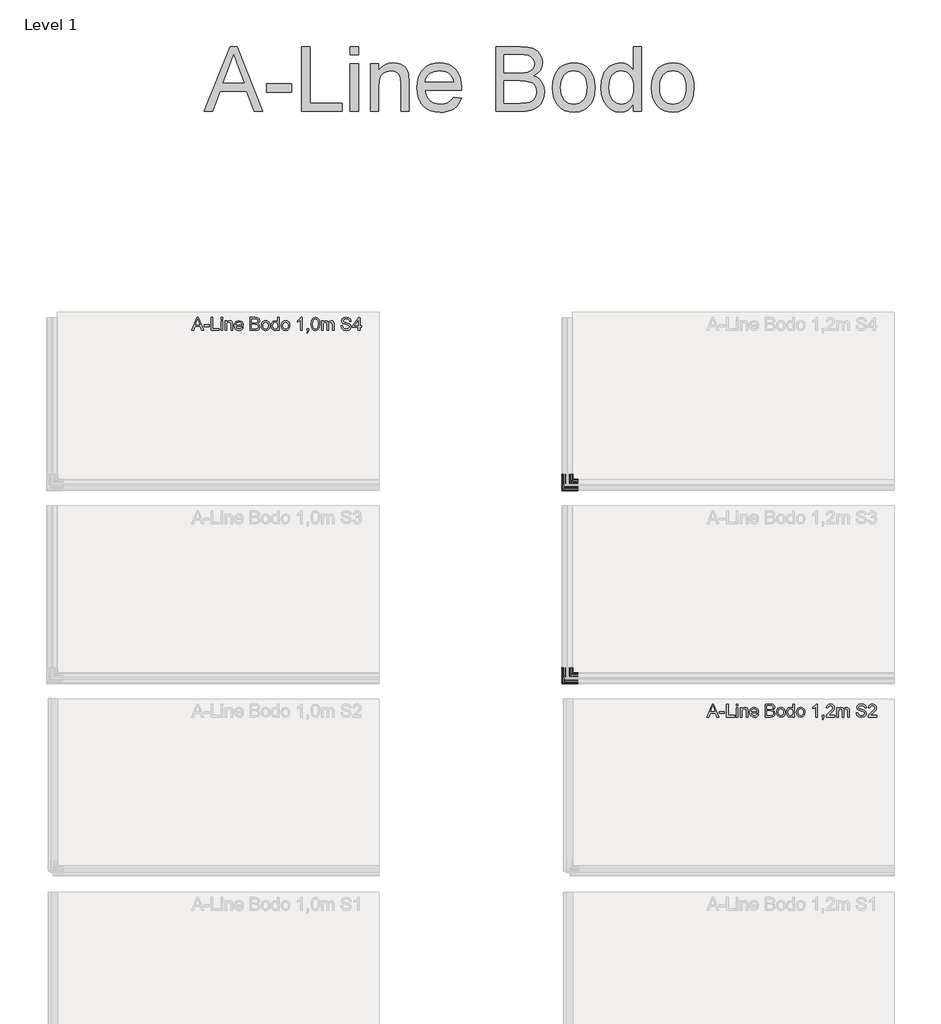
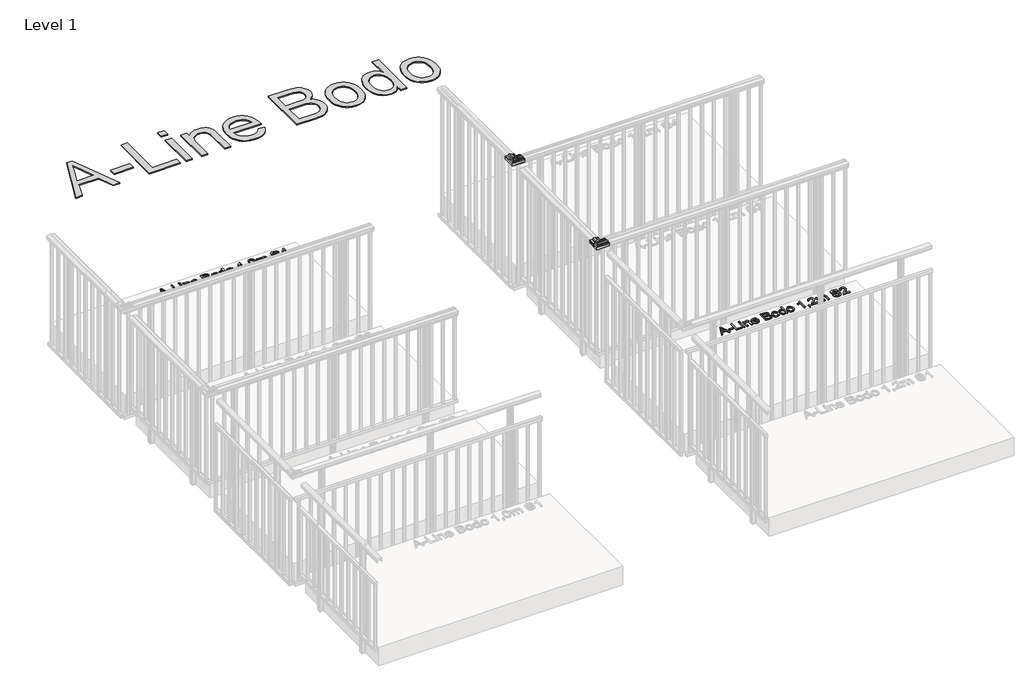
# One storey, part 51 of 66: 5 proxies.
"""IFC4 building model written with IfcOpenShell, lengths in millimetres."""

from ifc_helpers import new_model, si_unit, origin, origin_with_axes, place, context, project, spatial, polyline, outline, extrude, transform, mapped, element, save
from components import generic_models_224f447f

model = new_model("IFC4")

# Units and contexts
model_context = context("Model", 3, world=origin())
ifc_project = project(units=[si_unit("LENGTHUNIT", "METRE", prefix="MILLI")], contexts=[model_context])

# Site, building, storey
site = spatial("IfcSite", under=ifc_project)
building = spatial("IfcBuilding", under=site)
storey = spatial("IfcBuildingStorey", under=building, Name="Level 1", Elevation=0.0)

# Proxies
placement = place(None, origin())
generic_models_shape = generic_models_224f447f(model_context)
element("IfcBuildingElementProxy", 1, Name="Innore top rail 81x35 corner element : Innore top rail 81x35 element", ObjectType="Innore top rail 81x35 corner element : Innore top rail 81x35 element", at=placement, inside=storey, context=model_context, shape_type="MappedRepresentation", body=[
    mapped(generic_models_shape, transform((8465.4055183, -14608.7359818, 1200.0), x_axis=(0.0, -1.0, 0.0), y_axis=(1.0, 0.0, 0.0), z_axis=(0.0, 0.0, 1.0))),
])
element("IfcBuildingElementProxy", 2, Name="Innore top rail 81x35 corner element : Innore top rail 81x35 element", ObjectType="Innore top rail 81x35 corner element : Innore top rail 81x35 element", at=placement, inside=storey, context=model_context, shape_type="MappedRepresentation", body=[
    mapped(generic_models_shape, transform((8465.4055183, -13109.7805179, 1200.0), x_axis=(0.0, -1.0, 0.0), y_axis=(1.0, 0.0, 0.0), z_axis=(0.0, 0.0, 1.0))),
])
element("IfcBuildingElementProxy", 3, Name="100mm Arial", ObjectType="100mm Arial", at=placement, inside=storey, context=model_context, shape_type="SweptSolid", body=[
    extrude(outline(polyline([(5549.8662562, -11909.7113559), (5589.9653937, -11809.2550458), (5600.658497, -11809.2550458), (5640.7576345, -11909.7113559), (5627.4893572, -11909.7113559), (5615.9869135, -11878.318759), (5574.6124518, -11878.318759), (5563.1345335, -11909.7113559), (5549.8662562, -11909.7113559)]), holes=[polyline([(5579.2232395, -11865.7617202), (5611.4006513, -11865.7617202), (5602.3507542, -11841.0645756), (5595.3119454, -11821.8120845), (5589.0579515, -11838.9063346), (5579.2232395, -11865.7617202)])]), origin_with_axes(), (0.0, 0.0, 1.0), 10.0),
    extrude(outline(polyline([(5646.3249154, -11879.8883888), (5646.3249154, -11867.3313501), (5685.5656615, -11867.3313501), (5685.5656615, -11879.8883888), (5646.3249154, -11879.8883888)])), origin_with_axes(), (0.0, 0.0, 1.0), 10.0),
    extrude(outline(polyline([(5701.26196, -11909.7113559), (5701.26196, -11809.2550458), (5713.8189988, -11809.2550458), (5713.8189988, -11897.1543171), (5764.0471538, -11897.1543171), (5764.0471538, -11909.7113559), (5701.26196, -11909.7113559)])), origin_with_axes(), (0.0, 0.0, 1.0), 10.0),
    extrude(outline(polyline([(5776.6041926, -11821.8120845), (5776.6041926, -11809.2550458), (5789.1612314, -11809.2550458), (5789.1612314, -11821.8120845), (5776.6041926, -11821.8120845)])), origin_with_axes(), (0.0, 0.0, 1.0), 10.0),
    extrude(outline(polyline([(5776.6041926, -11909.7113559), (5776.6041926, -11835.9387532), (5789.1612314, -11835.9387532), (5789.1612314, -11909.7113559), (5776.6041926, -11909.7113559)])), origin_with_axes(), (0.0, 0.0, 1.0), 10.0),
    extrude(outline(polyline([(5807.9967895, -11909.7113559), (5807.9967895, -11835.9387532), (5820.5538283, -11835.9387532), (5820.5538283, -11846.239449), (5830.1555484, -11837.3367047), (5843.2644101, -11834.3691233), (5855.1224731, -11836.7603563), (5863.215877, -11843.0388757), (5866.9805361, -11852.2727137), (5867.6427237, -11864.4128196), (5867.6427237, -11909.7113559), (5855.0856849, -11909.7113559), (5855.0856849, -11866.1050768), (5853.6386824, -11854.9950405), (5848.5251227, -11849.1211913), (5839.9044212, -11846.9261621), (5826.2805247, -11851.8557808), (5821.9855024, -11858.9988229), (5820.5538283, -11870.5687116), (5820.5538283, -11909.7113559), (5807.9967895, -11909.7113559)])), origin_with_axes(), (0.0, 0.0, 1.0), 10.0),
    extrude(outline(polyline([(5936.5592841, -11887.7365381), (5948.8710682, -11889.3061679), (5944.4350245, -11898.5829256), (5937.3563618, -11905.5175012), (5927.7944956, -11909.8401146), (5915.9088414, -11911.2809858), (5901.1751675, -11908.7947166), (5889.8382707, -11901.3359092), (5882.6093895, -11889.3889414), (5880.1997624, -11873.4381912), (5882.633915, -11856.9509464), (5889.9363726, -11844.6207682), (5901.1199852, -11836.9320345), (5915.1976029, -11834.3691233), (5928.8368279, -11836.9259032), (5939.735332, -11844.5962428), (5946.8814398, -11856.9018955), (5949.2634757, -11873.3646148), (5949.1898993, -11876.7491291), (5892.7568012, -11876.7491291), (5894.9303707, -11886.1485141), (5899.9795511, -11893.0585643), (5907.2666802, -11897.3076013), (5916.1540961, -11898.723947), (5928.4658802, -11896.0997221), (5936.5592841, -11887.7365381)]), holes=[polyline([(5892.7568012, -11864.1920904), (5936.7064369, -11864.1920904), (5931.6787163, -11852.812274), (5924.3578646, -11848.3976901), (5915.148552, -11846.9261621), (5899.6852455, -11851.6227889), (5894.8200061, -11857.1134277), (5892.7568012, -11864.1920904)])]), origin_with_axes(), (0.0, 0.0, 1.0), 10.0),
    extrude(outline(polyline([(6002.6308904, -11909.7113559), (6002.6308904, -11809.2550458), (6040.9641943, -11809.2550458), (6059.7384388, -11812.2103645), (6070.8239496, -11821.2970497), (6074.8338634, -11834.1483941), (6071.4616117, -11845.8838298), (6061.2712805, -11854.7743113), (6073.6443782, -11864.1430394), (6077.973123, -11879.7657615), (6075.0178044, -11893.2670307), (6067.6969527, -11902.8810135), (6056.7708574, -11907.9823105), (6040.6698887, -11909.7113559), (6002.6308904, -11909.7113559)]), holes=[polyline([(6015.1879292, -11897.1543171), (6040.9396689, -11897.1543171), (6050.2593461, -11896.6638078), (6058.1442835, -11893.9292183), (6063.3682078, -11888.3496747), (6065.4160843, -11879.8883888), (6063.0125886, -11870.1272532), (6055.225753, -11864.302455), (6039.7133956, -11862.6224605), (6015.1879292, -11862.6224605), (6015.1879292, -11897.1543171)]), polyline([(6015.1879292, -11850.0654218), (6038.1192402, -11850.0654218), (6051.5101449, -11848.9863012), (6059.5667606, -11844.3387254), (6062.2768246, -11836.1594823), (6059.7507016, -11827.9679766), (6052.515689, -11823.124197), (6036.3779321, -11821.8120845), (6015.1879292, -11821.8120845), (6015.1879292, -11850.0654218)])]), origin_with_axes(), (0.0, 0.0, 1.0), 10.0),
    extrude(outline(polyline([(6090.5301618, -11872.8250545), (6093.2463572, -11855.0379601), (6101.3949434, -11842.5361036), (6111.4626473, -11836.4108684), (6123.5169141, -11834.3691233), (6136.7085493, -11836.8553925), (6147.2453027, -11844.3141999), (6154.1522872, -11856.1569345), (6156.4546154, -11871.7949849), (6152.3833879, -11894.1376848), (6140.525325, -11906.7805627), (6123.5169141, -11911.2809858), (6110.1658633, -11908.8039137), (6099.6413726, -11901.3726974), (6092.8079645, -11889.2816425), (6090.5301618, -11872.8250545)]), holes=[polyline([(6103.0872006, -11872.8005291), (6104.5403345, -11884.165017), (6108.8997361, -11892.2614866), (6115.4602984, -11897.1083319), (6123.5169141, -11898.723947), (6131.5367415, -11897.0991348), (6138.0850411, -11892.2246984), (6142.4444427, -11884.0209299), (6143.8975766, -11872.4081216), (6142.4352457, -11861.3747274), (6138.0482529, -11853.3886225), (6131.4907563, -11848.5417772), (6123.5169141, -11846.9261621), (6115.4602984, -11848.5356458), (6108.8997361, -11853.364097), (6104.5403345, -11861.4421725), (6103.0872006, -11872.8005291)])]), origin_with_axes(), (0.0, 0.0, 1.0), 10.0),
    extrude(outline(polyline([(6216.1005495, -11909.7113559), (6216.1005495, -11897.8655557), (6207.7925478, -11907.9271282), (6196.3084982, -11911.2809858), (6180.7593525, -11906.4249434), (6169.7719436, -11892.8746233), (6165.8723944, -11872.8986309), (6169.4653753, -11852.9103759), (6180.232055, -11839.1515892), (6196.2594472, -11834.3691233), (6207.8354673, -11837.7904259), (6216.1005495, -11846.6809074), (6216.1005495, -11809.2550458), (6228.6575883, -11809.2550458), (6228.6575883, -11909.7113559), (6216.1005495, -11909.7113559)]), holes=[polyline([(6178.4294332, -11872.84958), (6179.8457789, -11884.2079366), (6184.0948159, -11892.2860121), (6190.2691021, -11897.1144633), (6197.4611951, -11898.723947), (6204.6502224, -11897.1880397), (6210.6681587, -11892.5803177), (6214.7424518, -11884.8149419), (6216.1005495, -11873.8060732), (6214.7179263, -11861.7702006), (6210.5700568, -11853.4254107), (6204.3988364, -11848.5509742), (6196.9461603, -11846.9261621), (6189.6804909, -11848.4865949), (6183.7269339, -11853.1678933), (6179.7538084, -11861.2091805), (6178.4294332, -11872.84958)])]), origin_with_axes(), (0.0, 0.0, 1.0), 10.0),
    extrude(outline(polyline([(6244.3538867, -11872.8250545), (6247.0700821, -11855.0379601), (6255.2186683, -11842.5361036), (6265.2863723, -11836.4108684), (6277.340639, -11834.3691233), (6290.5322742, -11836.8553925), (6301.0690277, -11844.3141999), (6307.9760121, -11856.1569345), (6310.2783403, -11871.7949849), (6306.2071129, -11894.1376848), (6294.3490499, -11906.7805627), (6277.340639, -11911.2809858), (6263.9895882, -11908.8039137), (6253.4650975, -11901.3726974), (6246.6316894, -11889.2816425), (6244.3538867, -11872.8250545)]), holes=[polyline([(6256.9109255, -11872.8005291), (6258.3640594, -11884.165017), (6262.723461, -11892.2614866), (6269.2840233, -11897.1083319), (6277.340639, -11898.723947), (6285.3604665, -11897.0991348), (6291.908766, -11892.2246984), (6296.2681676, -11884.0209299), (6297.7213015, -11872.4081216), (6296.2589706, -11861.3747274), (6291.8719778, -11853.3886225), (6285.3144812, -11848.5417772), (6277.340639, -11846.9261621), (6269.2840233, -11848.5356458), (6262.723461, -11853.364097), (6258.3640594, -11861.4421725), (6256.9109255, -11872.8005291)])]), origin_with_axes(), (0.0, 0.0, 1.0), 10.0),
    extrude(outline(polyline([(6407.5953907, -11909.7113559), (6395.038352, -11909.7113559), (6395.038352, -11831.4260673), (6383.1435008, -11839.899616), (6369.9242744, -11846.239449), (6369.9242744, -11834.3691233), (6388.3306369, -11822.6214249), (6399.5019868, -11809.2550458), (6407.5953907, -11809.2550458), (6407.5953907, -11909.7113559)])), origin_with_axes(), (0.0, 0.0, 1.0), 10.0),
    extrude(outline(polyline([(6443.6968772, -11909.7113559), (6443.6968772, -11897.1543171), (6456.253916, -11897.1543171), (6456.253916, -11909.7113559), (6453.9975731, -11922.5504375), (6446.8361369, -11930.1165439), (6443.6968772, -11925.4076544), (6448.3076649, -11919.9875263), (6449.9508711, -11909.7113559), (6443.6968772, -11909.7113559)])), origin_with_axes(), (0.0, 0.0, 1.0), 10.0),
    extrude(outline(polyline([(6476.659104, -11860.2925412), (6480.3501866, -11831.3892791), (6491.3130701, -11814.7242248), (6509.6213307, -11809.2550458), (6524.2875596, -11812.4924073), (6534.4165772, -11821.8243473), (6540.3026891, -11836.6867799), (6542.5835575, -11860.2925412), (6538.929263, -11889.073176), (6528.0031677, -11905.7750186), (6519.7718081, -11909.904494), (6509.6213307, -11911.2809858), (6496.5737826, -11908.8897528), (6486.6654942, -11901.7160539), (6479.1607015, -11884.7260371), (6476.659104, -11860.2925412)]), holes=[polyline([(6489.2161427, -11860.2680158), (6490.6876707, -11880.0202132), (6495.1022546, -11891.4521462), (6501.6750796, -11896.9059968), (6509.6213307, -11898.723947), (6517.5675818, -11896.8998654), (6524.1404068, -11891.4276208), (6528.5549907, -11879.9895564), (6530.0265187, -11860.2680158), (6528.6040417, -11840.9603424), (6524.3366105, -11829.4395046), (6517.7760483, -11823.7189395), (6509.4741779, -11821.8120845), (6501.613766, -11823.492079), (6495.2984584, -11828.5320623), (6490.7367216, -11840.77027), (6489.2161427, -11860.2680158)])]), origin_with_axes(), (0.0, 0.0, 1.0), 10.0),
    extrude(outline(polyline([(6556.7102261, -11909.7113559), (6556.7102261, -11835.9387532), (6569.2672649, -11835.9387532), (6569.2672649, -11848.078859), (6577.900229, -11838.1337824), (6590.1874877, -11834.3691233), (6602.7690519, -11838.2073588), (6609.6852334, -11848.9617758), (6619.4831572, -11838.0172864), (6631.856255, -11834.3691233), (6641.2954938, -11835.8866365), (6648.2760547, -11840.4391762), (6652.5894711, -11848.1493697), (6654.0272766, -11859.1398443), (6654.0272766, -11909.7113559), (6641.4702378, -11909.7113559), (6641.4702378, -11864.5354469), (6640.3052781, -11854.05081), (6636.0868979, -11848.8881994), (6628.913199, -11846.9261621), (6616.5646267, -11851.9538827), (6612.8766097, -11858.4960508), (6611.6472707, -11868.0671141), (6611.6472707, -11909.7113559), (6599.090232, -11909.7113559), (6599.090232, -11863.1374953), (6596.1839642, -11850.972864), (6586.6558205, -11846.9261621), (6577.3606688, -11849.6239634), (6571.1802513, -11857.5211635), (6569.2672649, -11872.5062235), (6569.2672649, -11909.7113559), (6556.7102261, -11909.7113559)])), origin_with_axes(), (0.0, 0.0, 1.0), 10.0),
    extrude(outline(polyline([(6708.9643212, -11875.1794993), (6721.5213599, -11875.1794993), (6725.5680619, -11887.7488008), (6735.4518248, -11895.6950519), (6750.5104612, -11898.723947), (6763.6315857, -11896.4308159), (6772.1051343, -11890.127771), (6774.8887747, -11881.7032734), (6772.8041101, -11873.8673869), (6764.2692478, -11868.1652159), (6745.9855126, -11863.3704873), (6726.3038259, -11857.177807), (6715.6229853, -11847.8336043), (6712.1035809, -11835.350142), (6716.4568511, -11821.1376342), (6729.1733054, -11811.1067185), (6747.7881344, -11807.6854159), (6767.6537621, -11811.266134), (6780.897514, -11821.7875591), (6785.8761836, -11837.508383), (6773.3191449, -11837.508383), (6771.013751, -11830.015853), (6766.2067596, -11824.6079877), (6748.2786437, -11820.2424547), (6730.3014769, -11824.5589368), (6724.6606196, -11834.98226), (6728.6582707, -11843.6888005), (6749.1615605, -11850.7030839), (6771.381633, -11857.0061287), (6783.5340016, -11867.1841973), (6787.4458135, -11881.3844423), (6782.9453904, -11896.4062904), (6769.9959442, -11907.3691739), (6751.0009705, -11911.2809858), (6728.5724315, -11907.0626056), (6714.3844492, -11894.358414), (6708.9643212, -11875.1794993)])), origin_with_axes(), (0.0, 0.0, 1.0), 10.0),
    extrude(outline(polyline([(6842.3828581, -11909.7113559), (6842.3828581, -11886.1669082), (6796.8635926, -11886.1669082), (6796.8635926, -11873.6098695), (6845.5221178, -11810.8246756), (6854.9398969, -11810.8246756), (6854.9398969, -11873.6098695), (6867.4969356, -11873.6098695), (6867.4969356, -11886.1669082), (6854.9398969, -11886.1669082), (6854.9398969, -11909.7113559), (6842.3828581, -11909.7113559)]), holes=[polyline([(6842.3828581, -11873.6098695), (6842.3828581, -11834.8105817), (6812.3146364, -11873.6098695), (6842.3828581, -11873.6098695)])]), origin_with_axes(), (0.0, 0.0, 1.0), 10.0),
])
element("IfcBuildingElementProxy", 4, Name="100mm Arial", ObjectType="100mm Arial", at=placement, inside=storey, context=model_context, shape_type="SweptSolid", body=[
    extrude(outline(polyline([(9549.8662562, -14909.7113559), (9589.9653937, -14809.2550458), (9600.658497, -14809.2550458), (9640.7576345, -14909.7113559), (9627.4893572, -14909.7113559), (9615.9869135, -14878.318759), (9574.6124518, -14878.318759), (9563.1345335, -14909.7113559), (9549.8662562, -14909.7113559)]), holes=[polyline([(9579.2232395, -14865.7617202), (9611.4006513, -14865.7617202), (9602.3507542, -14841.0645756), (9595.3119454, -14821.8120845), (9589.0579515, -14838.9063346), (9579.2232395, -14865.7617202)])]), origin_with_axes(), (0.0, 0.0, 1.0), 10.0),
    extrude(outline(polyline([(9646.3249154, -14879.8883888), (9646.3249154, -14867.3313501), (9685.5656615, -14867.3313501), (9685.5656615, -14879.8883888), (9646.3249154, -14879.8883888)])), origin_with_axes(), (0.0, 0.0, 1.0), 10.0),
    extrude(outline(polyline([(9701.26196, -14909.7113559), (9701.26196, -14809.2550458), (9713.8189988, -14809.2550458), (9713.8189988, -14897.1543171), (9764.0471538, -14897.1543171), (9764.0471538, -14909.7113559), (9701.26196, -14909.7113559)])), origin_with_axes(), (0.0, 0.0, 1.0), 10.0),
    extrude(outline(polyline([(9776.6041926, -14821.8120845), (9776.6041926, -14809.2550458), (9789.1612314, -14809.2550458), (9789.1612314, -14821.8120845), (9776.6041926, -14821.8120845)])), origin_with_axes(), (0.0, 0.0, 1.0), 10.0),
    extrude(outline(polyline([(9776.6041926, -14909.7113559), (9776.6041926, -14835.9387532), (9789.1612314, -14835.9387532), (9789.1612314, -14909.7113559), (9776.6041926, -14909.7113559)])), origin_with_axes(), (0.0, 0.0, 1.0), 10.0),
    extrude(outline(polyline([(9807.9967895, -14909.7113559), (9807.9967895, -14835.9387532), (9820.5538283, -14835.9387532), (9820.5538283, -14846.239449), (9830.1555484, -14837.3367047), (9843.2644101, -14834.3691233), (9855.1224731, -14836.7603563), (9863.215877, -14843.0388757), (9866.9805361, -14852.2727137), (9867.6427237, -14864.4128196), (9867.6427237, -14909.7113559), (9855.0856849, -14909.7113559), (9855.0856849, -14866.1050768), (9853.6386824, -14854.9950405), (9848.5251227, -14849.1211913), (9839.9044212, -14846.9261621), (9826.2805247, -14851.8557808), (9821.9855024, -14858.9988229), (9820.5538283, -14870.5687116), (9820.5538283, -14909.7113559), (9807.9967895, -14909.7113559)])), origin_with_axes(), (0.0, 0.0, 1.0), 10.0),
    extrude(outline(polyline([(9936.5592841, -14887.7365381), (9948.8710682, -14889.3061679), (9944.4350245, -14898.5829256), (9937.3563618, -14905.5175012), (9927.7944956, -14909.8401146), (9915.9088414, -14911.2809858), (9901.1751675, -14908.7947166), (9889.8382707, -14901.3359092), (9882.6093895, -14889.3889414), (9880.1997624, -14873.4381912), (9882.633915, -14856.9509464), (9889.9363726, -14844.6207682), (9901.1199852, -14836.9320345), (9915.1976029, -14834.3691233), (9928.8368279, -14836.9259032), (9939.735332, -14844.5962428), (9946.8814398, -14856.9018955), (9949.2634757, -14873.3646148), (9949.1898993, -14876.7491291), (9892.7568012, -14876.7491291), (9894.9303707, -14886.1485141), (9899.9795511, -14893.0585643), (9907.2666802, -14897.3076013), (9916.1540961, -14898.723947), (9928.4658802, -14896.0997221), (9936.5592841, -14887.7365381)]), holes=[polyline([(9892.7568012, -14864.1920904), (9936.7064369, -14864.1920904), (9931.6787163, -14852.812274), (9924.3578646, -14848.3976901), (9915.148552, -14846.9261621), (9899.6852455, -14851.6227889), (9894.8200061, -14857.1134277), (9892.7568012, -14864.1920904)])]), origin_with_axes(), (0.0, 0.0, 1.0), 10.0),
    extrude(outline(polyline([(10002.6308904, -14909.7113559), (10002.6308904, -14809.2550458), (10040.9641943, -14809.2550458), (10059.7384388, -14812.2103645), (10070.8239496, -14821.2970497), (10074.8338634, -14834.1483941), (10071.4616117, -14845.8838298), (10061.2712805, -14854.7743113), (10073.6443782, -14864.1430394), (10077.973123, -14879.7657615), (10075.0178044, -14893.2670307), (10067.6969527, -14902.8810135), (10056.7708574, -14907.9823105), (10040.6698887, -14909.7113559), (10002.6308904, -14909.7113559)]), holes=[polyline([(10015.1879292, -14897.1543171), (10040.9396689, -14897.1543171), (10050.2593461, -14896.6638078), (10058.1442835, -14893.9292183), (10063.3682078, -14888.3496747), (10065.4160843, -14879.8883888), (10063.0125886, -14870.1272532), (10055.225753, -14864.302455), (10039.7133956, -14862.6224605), (10015.1879292, -14862.6224605), (10015.1879292, -14897.1543171)]), polyline([(10015.1879292, -14850.0654218), (10038.1192402, -14850.0654218), (10051.5101449, -14848.9863012), (10059.5667606, -14844.3387254), (10062.2768246, -14836.1594823), (10059.7507016, -14827.9679766), (10052.515689, -14823.124197), (10036.3779321, -14821.8120845), (10015.1879292, -14821.8120845), (10015.1879292, -14850.0654218)])]), origin_with_axes(), (0.0, 0.0, 1.0), 10.0),
    extrude(outline(polyline([(10090.5301618, -14872.8250545), (10093.2463572, -14855.0379601), (10101.3949434, -14842.5361036), (10111.4626473, -14836.4108684), (10123.5169141, -14834.3691233), (10136.7085493, -14836.8553925), (10147.2453027, -14844.3141999), (10154.1522872, -14856.1569345), (10156.4546154, -14871.7949849), (10152.3833879, -14894.1376848), (10140.525325, -14906.7805627), (10123.5169141, -14911.2809858), (10110.1658633, -14908.8039137), (10099.6413726, -14901.3726974), (10092.8079645, -14889.2816425), (10090.5301618, -14872.8250545)]), holes=[polyline([(10103.0872006, -14872.8005291), (10104.5403345, -14884.165017), (10108.8997361, -14892.2614866), (10115.4602984, -14897.1083319), (10123.5169141, -14898.723947), (10131.5367415, -14897.0991348), (10138.0850411, -14892.2246984), (10142.4444427, -14884.0209299), (10143.8975766, -14872.4081216), (10142.4352457, -14861.3747274), (10138.0482529, -14853.3886225), (10131.4907563, -14848.5417772), (10123.5169141, -14846.9261621), (10115.4602984, -14848.5356458), (10108.8997361, -14853.364097), (10104.5403345, -14861.4421725), (10103.0872006, -14872.8005291)])]), origin_with_axes(), (0.0, 0.0, 1.0), 10.0),
    extrude(outline(polyline([(10216.1005495, -14909.7113559), (10216.1005495, -14897.8655557), (10207.7925478, -14907.9271282), (10196.3084982, -14911.2809858), (10180.7593525, -14906.4249434), (10169.7719436, -14892.8746233), (10165.8723944, -14872.8986309), (10169.4653753, -14852.9103759), (10180.232055, -14839.1515892), (10196.2594472, -14834.3691233), (10207.8354673, -14837.7904259), (10216.1005495, -14846.6809074), (10216.1005495, -14809.2550458), (10228.6575883, -14809.2550458), (10228.6575883, -14909.7113559), (10216.1005495, -14909.7113559)]), holes=[polyline([(10178.4294332, -14872.84958), (10179.8457789, -14884.2079366), (10184.0948159, -14892.2860121), (10190.2691021, -14897.1144633), (10197.4611951, -14898.723947), (10204.6502224, -14897.1880397), (10210.6681587, -14892.5803177), (10214.7424518, -14884.8149419), (10216.1005495, -14873.8060732), (10214.7179263, -14861.7702006), (10210.5700568, -14853.4254107), (10204.3988364, -14848.5509742), (10196.9461603, -14846.9261621), (10189.6804909, -14848.4865949), (10183.7269339, -14853.1678933), (10179.7538084, -14861.2091805), (10178.4294332, -14872.84958)])]), origin_with_axes(), (0.0, 0.0, 1.0), 10.0),
    extrude(outline(polyline([(10244.3538867, -14872.8250545), (10247.0700821, -14855.0379601), (10255.2186683, -14842.5361036), (10265.2863723, -14836.4108684), (10277.340639, -14834.3691233), (10290.5322742, -14836.8553925), (10301.0690277, -14844.3141999), (10307.9760121, -14856.1569345), (10310.2783403, -14871.7949849), (10306.2071129, -14894.1376848), (10294.3490499, -14906.7805627), (10277.340639, -14911.2809858), (10263.9895882, -14908.8039137), (10253.4650975, -14901.3726974), (10246.6316894, -14889.2816425), (10244.3538867, -14872.8250545)]), holes=[polyline([(10256.9109255, -14872.8005291), (10258.3640594, -14884.165017), (10262.723461, -14892.2614866), (10269.2840233, -14897.1083319), (10277.340639, -14898.723947), (10285.3604665, -14897.0991348), (10291.908766, -14892.2246984), (10296.2681676, -14884.0209299), (10297.7213015, -14872.4081216), (10296.2589706, -14861.3747274), (10291.8719778, -14853.3886225), (10285.3144812, -14848.5417772), (10277.340639, -14846.9261621), (10269.2840233, -14848.5356458), (10262.723461, -14853.364097), (10258.3640594, -14861.4421725), (10256.9109255, -14872.8005291)])]), origin_with_axes(), (0.0, 0.0, 1.0), 10.0),
    extrude(outline(polyline([(10407.5953907, -14909.7113559), (10395.038352, -14909.7113559), (10395.038352, -14831.4260673), (10383.1435008, -14839.899616), (10369.9242744, -14846.239449), (10369.9242744, -14834.3691233), (10388.3306369, -14822.6214249), (10399.5019868, -14809.2550458), (10407.5953907, -14809.2550458), (10407.5953907, -14909.7113559)])), origin_with_axes(), (0.0, 0.0, 1.0), 10.0),
    extrude(outline(polyline([(10443.6968772, -14909.7113559), (10443.6968772, -14897.1543171), (10456.253916, -14897.1543171), (10456.253916, -14909.7113559), (10453.9975731, -14922.5504375), (10446.8361369, -14930.1165439), (10443.6968772, -14925.4076544), (10448.3076649, -14919.9875263), (10449.9508711, -14909.7113559), (10443.6968772, -14909.7113559)])), origin_with_axes(), (0.0, 0.0, 1.0), 10.0),
    extrude(outline(polyline([(10541.0139276, -14897.1543171), (10541.0139276, -14909.7113559), (10475.0894741, -14909.7113559), (10476.4383748, -14901.0538663), (10484.0657948, -14887.7242753), (10499.7866187, -14873.1684111), (10521.467131, -14852.2481883), (10526.887259, -14838.0234178), (10521.7736993, -14826.5087113), (10508.4195829, -14821.8120845), (10494.5013807, -14826.3983467), (10489.2161427, -14839.0780128), (10476.659104, -14837.508383), (10479.7033275, -14825.3621458), (10486.2853495, -14816.4900583), (10496.0618135, -14811.0637989), (10508.689363, -14809.2550458), (10521.408883, -14811.266134), (10531.1669529, -14817.2993987), (10537.3749616, -14826.3125076), (10539.4442978, -14837.2631283), (10537.2124804, -14849.1702422), (10529.7935268, -14861.4820263), (10511.8040972, -14878.686641), (10497.3585976, -14890.7654332), (10491.6932148, -14897.1543171), (10541.0139276, -14897.1543171)])), origin_with_axes(), (0.0, 0.0, 1.0), 10.0),
    extrude(outline(polyline([(10556.7102261, -14909.7113559), (10556.7102261, -14835.9387532), (10569.2672649, -14835.9387532), (10569.2672649, -14848.078859), (10577.900229, -14838.1337824), (10590.1874877, -14834.3691233), (10602.7690519, -14838.2073588), (10609.6852334, -14848.9617758), (10619.4831572, -14838.0172864), (10631.856255, -14834.3691233), (10641.2954938, -14835.8866365), (10648.2760547, -14840.4391762), (10652.5894711, -14848.1493697), (10654.0272766, -14859.1398443), (10654.0272766, -14909.7113559), (10641.4702378, -14909.7113559), (10641.4702378, -14864.5354469), (10640.3052781, -14854.05081), (10636.0868979, -14848.8881994), (10628.913199, -14846.9261621), (10616.5646267, -14851.9538827), (10612.8766097, -14858.4960508), (10611.6472707, -14868.0671141), (10611.6472707, -14909.7113559), (10599.090232, -14909.7113559), (10599.090232, -14863.1374953), (10596.1839642, -14850.972864), (10586.6558205, -14846.9261621), (10577.3606688, -14849.6239634), (10571.1802513, -14857.5211635), (10569.2672649, -14872.5062235), (10569.2672649, -14909.7113559), (10556.7102261, -14909.7113559)])), origin_with_axes(), (0.0, 0.0, 1.0), 10.0),
    extrude(outline(polyline([(10708.9643212, -14875.1794993), (10721.5213599, -14875.1794993), (10725.5680619, -14887.7488008), (10735.4518248, -14895.6950519), (10750.5104612, -14898.723947), (10763.6315857, -14896.4308159), (10772.1051343, -14890.127771), (10774.8887747, -14881.7032734), (10772.8041101, -14873.8673869), (10764.2692478, -14868.1652159), (10745.9855126, -14863.3704873), (10726.3038259, -14857.177807), (10715.6229853, -14847.8336043), (10712.1035809, -14835.350142), (10716.4568511, -14821.1376342), (10729.1733054, -14811.1067185), (10747.7881344, -14807.6854159), (10767.6537621, -14811.266134), (10780.897514, -14821.7875591), (10785.8761836, -14837.508383), (10773.3191449, -14837.508383), (10771.013751, -14830.015853), (10766.2067596, -14824.6079877), (10748.2786437, -14820.2424547), (10730.3014769, -14824.5589368), (10724.6606196, -14834.98226), (10728.6582707, -14843.6888005), (10749.1615605, -14850.7030839), (10771.381633, -14857.0061287), (10783.5340016, -14867.1841973), (10787.4458135, -14881.3844423), (10782.9453904, -14896.4062904), (10769.9959442, -14907.3691739), (10751.0009705, -14911.2809858), (10728.5724315, -14907.0626056), (10714.3844492, -14894.358414), (10708.9643212, -14875.1794993)])), origin_with_axes(), (0.0, 0.0, 1.0), 10.0),
    extrude(outline(polyline([(10865.9273058, -14897.1543171), (10865.9273058, -14909.7113559), (10800.0028523, -14909.7113559), (10801.3517529, -14901.0538663), (10808.9791729, -14887.7242753), (10824.6999969, -14873.1684111), (10846.3805091, -14852.2481883), (10851.8006372, -14838.0234178), (10846.6870774, -14826.5087113), (10833.332961, -14821.8120845), (10819.4147589, -14826.3983467), (10814.1295209, -14839.0780128), (10801.5724821, -14837.508383), (10804.6167056, -14825.3621458), (10811.1987276, -14816.4900583), (10820.9751917, -14811.0637989), (10833.6027411, -14809.2550458), (10846.3222611, -14811.266134), (10856.080331, -14817.2993987), (10862.2883397, -14826.3125076), (10864.3576759, -14837.2631283), (10862.1258585, -14849.1702422), (10854.7069049, -14861.4820263), (10836.7174754, -14878.686641), (10822.2719757, -14890.7654332), (10816.606593, -14897.1543171), (10865.9273058, -14897.1543171)])), origin_with_axes(), (0.0, 0.0, 1.0), 10.0),
])
element("IfcBuildingElementProxy", 5, Name="500mm Arial 2", ObjectType="500mm Arial 2", at=placement, inside=storey, context=model_context, shape_type="SweptSolid", body=[
    extrude(outline(polyline([(5647.0213021, -10209.7113559), (5847.5169895, -9707.4298052), (5900.9825061, -9707.4298052), (6101.4781935, -10209.7113559), (6035.1368071, -10209.7113559), (5977.6245885, -10052.7483713), (5770.7522799, -10052.7483713), (5713.3626886, -10209.7113559), (5647.0213021, -10209.7113559)]), holes=[polyline([(5793.8062182, -9989.9631775), (5954.6932774, -9989.9631775), (5909.443792, -9866.4774544), (5874.2497478, -9770.214999), (5842.9797782, -9855.6862492), (5793.8062182, -9989.9631775)])]), origin_with_axes(), (0.0, 0.0, 1.0), 10.0),
    extrude(outline(polyline([(6129.3145978, -10060.5965205), (6129.3145978, -9997.8113267), (6325.5183286, -9997.8113267), (6325.5183286, -10060.5965205), (6129.3145978, -10060.5965205)])), origin_with_axes(), (0.0, 0.0, 1.0), 10.0),
    extrude(outline(polyline([(6403.9998209, -10209.7113559), (6403.9998209, -9707.4298052), (6466.7850147, -9707.4298052), (6466.7850147, -10146.9261621), (6717.9257901, -10146.9261621), (6717.9257901, -10209.7113559), (6403.9998209, -10209.7113559)])), origin_with_axes(), (0.0, 0.0, 1.0), 10.0),
    extrude(outline(polyline([(6780.7109839, -9770.214999), (6780.7109839, -9707.4298052), (6843.4961778, -9707.4298052), (6843.4961778, -9770.214999), (6780.7109839, -9770.214999)])), origin_with_axes(), (0.0, 0.0, 1.0), 10.0),
    extrude(outline(polyline([(6780.7109839, -10209.7113559), (6780.7109839, -9840.8483421), (6843.4961778, -9840.8483421), (6843.4961778, -10209.7113559), (6780.7109839, -10209.7113559)])), origin_with_axes(), (0.0, 0.0, 1.0), 10.0),
    extrude(outline(polyline([(6937.6739686, -10209.7113559), (6937.6739686, -9840.8483421), (7000.4591624, -9840.8483421), (7000.4591624, -9892.3518214), (7022.271499, -9866.3854839), (7048.4677628, -9847.8381), (7079.0479536, -9836.7096696), (7114.0120716, -9833.0001929), (7144.9601444, -9835.9892341), (7173.3023865, -9844.9563577), (7196.9388047, -9858.7825894), (7213.7694059, -9876.3489546), (7225.1890762, -9897.6094683), (7232.5927014, -9922.518145), (7235.9036393, -9983.2186742), (7235.9036393, -10209.7113559), (7173.1184455, -10209.7113559), (7173.1184455, -9991.6799601), (7171.3096923, -9959.214374), (7165.8834329, -9936.1297788), (7155.8739769, -9919.5904175), (7140.3156342, -9906.7605329), (7120.3733644, -9898.5291732), (7097.2121271, -9895.7853867), (7078.1474092, -9897.3258926), (7060.439256, -9901.9474101), (7044.0876678, -9909.6499394), (7029.0926444, -9920.4334804), (7016.565496, -9935.5243064), (7007.6175329, -9956.1486907), (7002.248755, -9982.3066334), (7000.4591624, -10013.9981345), (7000.4591624, -10209.7113559), (6937.6739686, -10209.7113559)])), origin_with_axes(), (0.0, 0.0, 1.0), 10.0),
    extrude(outline(polyline([(7580.4864415, -10099.8372667), (7642.045362, -10107.6854159), (7632.6068895, -10132.3411738), (7619.8651434, -10154.0692041), (7603.8201234, -10172.8695069), (7584.4718297, -10188.7420822), (7562.0195317, -10201.3497047), (7536.6624988, -10210.3551494), (7508.4007309, -10215.7584162), (7477.2342281, -10217.5595051), (7438.2770577, -10214.4516687), (7403.5658586, -10205.1281594), (7373.1006309, -10189.5889772), (7346.8813745, -10167.8341221), (7325.7971377, -10140.4690666), (7310.7369685, -10108.0992832), (7301.700867, -10070.7247717), (7298.6888332, -10028.3455323), (7301.7315238, -9984.5292538), (7310.8595958, -9945.9093085), (7326.0730492, -9912.4856964), (7347.3718839, -9884.2584175), (7373.5221623, -9861.8329442), (7403.2899471, -9845.814749), (7436.6752382, -9836.2038319), (7473.6780355, -9833.0001929), (7509.4890485, -9836.1961677), (7541.8741604, -9845.7840922), (7570.8333712, -9861.7639664), (7596.3666809, -9884.1357902), (7617.2094952, -9912.3017554), (7632.0972197, -9945.6640539), (7641.0298544, -9984.2226855), (7644.0073993, -10027.9776503), (7643.6395173, -10044.9002221), (7361.474027, -10044.9002221), (7365.1106938, -10069.9545188), (7372.3418743, -10091.897147), (7383.1675684, -10110.7281066), (7397.5877762, -10126.4473977), (7414.80542, -10138.8404224), (7434.0234221, -10147.6925829), (7455.2417826, -10153.0038792), (7478.4605015, -10154.7743113), (7511.8764494, -10151.4940302), (7540.019422, -10141.6531868), (7562.8894194, -10124.6386445), (7580.4864415, -10099.8372667)]), holes=[polyline([(7361.474027, -9982.1150282), (7581.2222055, -9982.1150282), (7572.7302627, -9948.944335), (7556.0836024, -9925.2159463), (7538.9617613, -9912.3400765), (7519.4793439, -9903.1430266), (7497.6363505, -9897.6247967), (7473.4327809, -9895.7853867), (7431.111023, -9901.6561702), (7412.6977627, -9908.9946496), (7396.1162482, -9919.2685207), (7382.2018782, -9932.0026027), (7371.7900513, -9946.7217146), (7364.8807676, -9963.4258565), (7361.474027, -9982.1150282)])]), origin_with_axes(), (0.0, 0.0, 1.0), 10.0),
    extrude(outline(polyline([(7910.8444731, -10209.7113559), (7910.8444731, -9707.4298052), (8102.5109926, -9707.4298052), (8155.2254168, -9711.1239535), (8196.3822151, -9722.2063986), (8227.9280961, -9740.953052), (8251.809769, -9767.639825), (8266.8469455, -9799.032422), (8271.8593377, -9831.8965469), (8267.6440232, -9862.1395126), (8254.9980796, -9890.5737251), (8233.8295365, -9915.451745), (8204.0464233, -9935.0261329), (8222.9961781, -9943.1042083), (8239.6236779, -9953.6041736), (8253.9289226, -9966.5260287), (8265.9119121, -9981.8697736), (8282.1447052, -10017.9528659), (8287.5556362, -10059.9833839), (8283.8614878, -10095.0088155), (8272.7790427, -10127.48973), (8256.2396814, -10155.1115365), (8236.1747842, -10175.559644), (8211.6033326, -10190.3668943), (8181.5443079, -10201.066129), (8145.0166915, -10207.5500492), (8101.0394646, -10209.7113559), (7910.8444731, -10209.7113559)]), holes=[polyline([(7973.629667, -9911.4816852), (8088.2862221, -9911.4816852), (8128.3853596, -9910.1327845), (8155.2407453, -9906.0860826), (8178.677894, -9896.7817338), (8195.5238237, -9882.8482032), (8205.6865638, -9864.5000887), (8209.0741439, -9841.9519881), (8205.9164901, -9820.0630094), (8196.4435287, -9800.9944593), (8181.0844554, -9786.1105669), (8160.2684659, -9776.7755613), (8128.3240459, -9771.8551396), (8079.5796816, -9770.214999), (7973.629667, -9770.214999), (7973.629667, -9911.4816852)]), polyline([(7973.629667, -10146.9261621), (8102.3883653, -10146.9261621), (8148.9867513, -10144.4736154), (8170.615147, -10139.0320276), (8188.4114385, -10130.800668), (8202.8814636, -10119.0131157), (8214.5310601, -10102.90295), (8222.2105968, -10083.1906064), (8224.7704423, -10060.5965205), (8221.7660727, -10034.3542715), (8212.7529638, -10011.7908425), (8197.0106801, -9994.1478352), (8173.818786, -9982.6668512), (8140.9699895, -9976.3668721), (8096.2569987, -9974.266879), (7973.629667, -9974.266879), (7973.629667, -10146.9261621)])]), origin_with_axes(), (0.0, 0.0, 1.0), 10.0),
    extrude(outline(polyline([(8350.34083, -10025.279849), (8353.7360743, -9977.5088391), (8363.921807, -9936.3443767), (8380.8980283, -9901.7864617), (8404.664738, -9873.8350943), (8428.5923961, -9855.9698249), (8455.0032577, -9843.2089182), (8483.8973227, -9835.5523742), (8515.2745912, -9833.0001929), (8549.9129803, -9836.1080293), (8581.2327673, -9845.4315386), (8609.233952, -9860.9707208), (8633.9165347, -9882.7255759), (8654.061906, -9909.9603398), (8668.4514569, -9941.9392487), (8677.0851875, -9978.6623024), (8679.9630977, -10020.1295011), (8674.8740634, -10083.5584884), (8668.5127706, -10109.5938038), (8659.6069606, -10131.8430003), (8648.2677646, -10151.0610024), (8634.6063134, -10168.0027347), (8618.6226071, -10182.6681972), (8600.3166458, -10195.0573898), (8559.5890432, -10211.9339763), (8515.2745912, -10217.5595051), (8480.1303644, -10214.463165), (8448.5193375, -10205.1741446), (8420.4415106, -10189.692444), (8395.8968838, -10168.0180631), (8375.9661103, -10140.518884), (8361.7298435, -10107.5627886), (8353.1880834, -10069.1497769), (8350.34083, -10025.279849)]), holes=[polyline([(8413.1260239, -10025.1572217), (8414.9424412, -10055.6109531), (8420.3916933, -10081.9796615), (8429.47378, -10104.2633469), (8442.1887015, -10122.4620094), (8457.6550737, -10136.5986415), (8474.9915127, -10146.6962358), (8494.1980186, -10152.7547924), (8515.2745912, -10154.7743113), (8536.2438649, -10152.7432961), (8555.3737287, -10146.6502506), (8572.6641825, -10136.4951747), (8588.1152263, -10122.2780684), (8600.8301477, -10103.8992971), (8609.9122345, -10081.2592259), (8615.3614865, -10054.357855), (8617.1779039, -10023.1951844), (8615.3499902, -9993.7071432), (8609.8662492, -9968.0282135), (8600.7266809, -9946.1583953), (8587.9312853, -9928.0976886), (8572.4227599, -9913.9610565), (8555.1438024, -9903.8634622), (8536.0944129, -9897.8049056), (8515.2745912, -9895.7853867), (8494.1980186, -9897.7972414), (8474.9915127, -9903.8328053), (8457.6550737, -9913.8920786), (8442.1887015, -9927.9750613), (8429.47378, -9946.1200743), (8420.3916933, -9968.3654387), (8414.9424412, -9994.7111545), (8413.1260239, -10025.1572217)])]), origin_with_axes(), (0.0, 0.0, 1.0), 10.0),
    extrude(outline(polyline([(8978.1927685, -10209.7113559), (8978.1927685, -10150.4823547), (8959.4077941, -10179.828608), (8936.6527598, -10200.7902175), (8909.9276657, -10213.3671832), (8879.2325118, -10217.5595051), (8838.642865, -10211.4894522), (8801.4867835, -10193.2792935), (8770.0328729, -10164.2012874), (8746.5497388, -10125.5276927), (8731.9264295, -10078.8220077), (8727.0519931, -10025.647731), (8731.5432191, -9973.1325762), (8745.0168972, -9925.7064556), (8755.1183236, -9904.5762335), (8767.4576989, -9886.0671707), (8782.035023, -9870.179267), (8798.8502958, -9856.9125225), (8836.8187834, -9838.9782753), (8878.9872571, -9833.0001929), (8909.7054037, -9837.276821), (8936.8673577, -9850.1067056), (8959.8906392, -9869.773064), (8978.1927685, -9894.5591134), (8978.1927685, -9707.4298052), (9040.9779623, -9707.4298052), (9040.9779623, -10209.7113559), (8978.1927685, -10209.7113559)]), holes=[polyline([(8789.8371869, -10025.4024763), (8791.607619, -10055.8485435), (8796.9189153, -10082.1942593), (8805.7710759, -10104.4396237), (8818.1641006, -10122.5846367), (8832.9636867, -10136.6676194), (8849.0355313, -10146.7268927), (8866.3796346, -10152.7624566), (8884.9959964, -10154.7743113), (8903.7004966, -10152.8544271), (8920.941133, -10147.0947747), (8936.7179056, -10137.4953538), (8951.0308145, -10124.0561647), (8962.9141694, -10106.6699083), (8971.40228, -10085.2292858), (8976.4951463, -10059.7342971), (8978.1927685, -10030.1849423), (8976.4644895, -9997.7883341), (8971.2796526, -9970.0055792), (8962.6382579, -9946.8366777), (8950.5403052, -9928.2816296), (8935.9131638, -9914.0645233), (8919.6842028, -9903.9094474), (8901.8534224, -9897.8164019), (8882.4208224, -9895.7853867), (8863.4365786, -9897.7359277), (8846.0924754, -9903.5875507), (8830.3885127, -9913.3402557), (8816.3246906, -9926.9940426), (8804.7364077, -9944.8478157), (8796.4590629, -9967.200479), (8791.4926559, -9994.0520326), (8789.8371869, -10025.4024763)])]), origin_with_axes(), (0.0, 0.0, 1.0), 10.0),
    extrude(outline(polyline([(9119.4594546, -10025.279849), (9122.8546989, -9977.5088391), (9133.0404316, -9936.3443767), (9150.0166528, -9901.7864617), (9173.7833626, -9873.8350943), (9197.7110207, -9855.9698249), (9224.1218822, -9843.2089182), (9253.0159473, -9835.5523742), (9284.3932158, -9833.0001929), (9319.0316049, -9836.1080293), (9350.3513918, -9845.4315386), (9378.3525766, -9860.9707208), (9403.0351592, -9882.7255759), (9423.1805306, -9909.9603398), (9437.5700815, -9941.9392487), (9446.2038121, -9978.6623024), (9449.0817223, -10020.1295011), (9443.992688, -10083.5584884), (9437.6313952, -10109.5938038), (9428.7255852, -10131.8430003), (9417.3863891, -10151.0610024), (9403.724938, -10168.0027347), (9387.7412317, -10182.6681972), (9369.4352703, -10195.0573898), (9328.7076678, -10211.9339763), (9284.3932158, -10217.5595051), (9249.2489889, -10214.463165), (9217.6379621, -10205.1741446), (9189.5601352, -10189.692444), (9165.0155084, -10168.0180631), (9145.0847348, -10140.518884), (9130.8484681, -10107.5627886), (9122.306708, -10069.1497769), (9119.4594546, -10025.279849)]), holes=[polyline([(9182.2446485, -10025.1572217), (9184.0610658, -10055.6109531), (9189.5103179, -10081.9796615), (9198.5924046, -10104.2633469), (9211.3073261, -10122.4620094), (9226.7736983, -10136.5986415), (9244.1101373, -10146.6962358), (9263.3166431, -10152.7547924), (9284.3932158, -10154.7743113), (9305.3624895, -10152.7432961), (9324.4923533, -10146.6502506), (9341.782807, -10136.4951747), (9357.2338508, -10122.2780684), (9369.9487723, -10103.8992971), (9379.030859, -10081.2592259), (9384.4801111, -10054.357855), (9386.2965285, -10023.1951844), (9384.4686148, -9993.7071432), (9378.9848738, -9968.0282135), (9369.8453055, -9946.1583953), (9357.0499098, -9928.0976886), (9341.5413845, -9913.9610565), (9324.262427, -9903.8634622), (9305.2130375, -9897.8049056), (9284.3932158, -9895.7853867), (9263.3166431, -9897.7972414), (9244.1101373, -9903.8328053), (9226.7736983, -9913.8920786), (9211.3073261, -9927.9750613), (9198.5924046, -9946.1200743), (9189.5103179, -9968.3654387), (9184.0610658, -9994.7111545), (9182.2446485, -10025.1572217)])]), origin_with_axes(), (0.0, 0.0, 1.0), 10.0),
])

save(model, "model.ifc")
